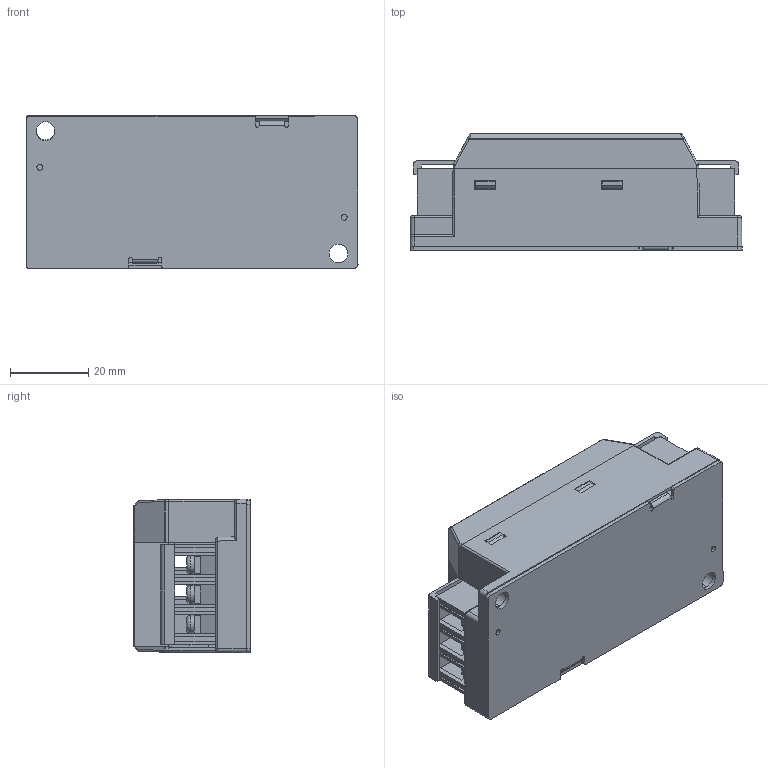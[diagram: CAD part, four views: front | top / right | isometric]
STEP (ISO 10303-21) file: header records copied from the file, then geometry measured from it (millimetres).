
FILE_DESCRIPTION((''),'2;1');
FILE_NAME('FC-L0XWXA2S_ASM','2022-11-08T',('pe213'),(''),'PRO/ENGINEER BY PARAMETRIC TECHNOLOGY CORPORATION, 2014000','PRO/ENGINEER BY PARAMETRIC TECHNOLOGY CORPORATION, 2014000','');
FILE_SCHEMA(('AUTOMOTIVE_DESIGN { 1 0 10303 214 1 1 1 1 }'));
Length unit declared in the file: millimetre
Products named in the file (10): PCB_27_1_1; ZLDZ-3P_15_1_1; BB_34_1_1; DZG-G_2_1_1; MANIFOLD_SOLID_BREP_58_6_1_1; ADMI103C73E6C1MI_ASM_1_ASM_1_AS_ASM; ZUZHUANG220415_ASM_1_ASM_1_ASM__ASM; 00_ASM_95_ASM_1_ASM_1_ASM; DB1; FC-L0XWXA2S_ASM
Assembly tree (11 placements, depth 5):
  FC-L0XWXA2S_ASM
    00_ASM_95_ASM_1_ASM_1_ASM
      PCB_27_1_1
      ZLDZ-3P_15_1_1  x2
      BB_34_1_1
      DZG-G_2_1_1  x2
      ZUZHUANG220415_ASM_1_ASM_1_ASM__ASM
        ADMI103C73E6C1MI_ASM_1_ASM_1_AS_ASM
          MANIFOLD_SOLID_BREP_58_6_1_1
    DB1
Bounding box: 85.08 x 29.9 x 39.36 mm (x, y, z)
Volume: 26770.6 mm3; surface area: 42401.2 mm2
Topology: 10 solids, 10 shells, 933 faces, 2580 edges, 1690 vertices
Faces by surface type: plane 708, cylinder 177, torus 24, bspline 20, sphere 4
Entity records: 30917 total; most frequent: CARTESIAN_POINT 5534, ORIENTED_EDGE 4024, DIRECTION 3634, EDGE_CURVE 2012, PRESENTATION_STYLE_ASSIGNMENT 1982, STYLED_ITEM 1977, CURVE_STYLE 1970, VECTOR 1550
